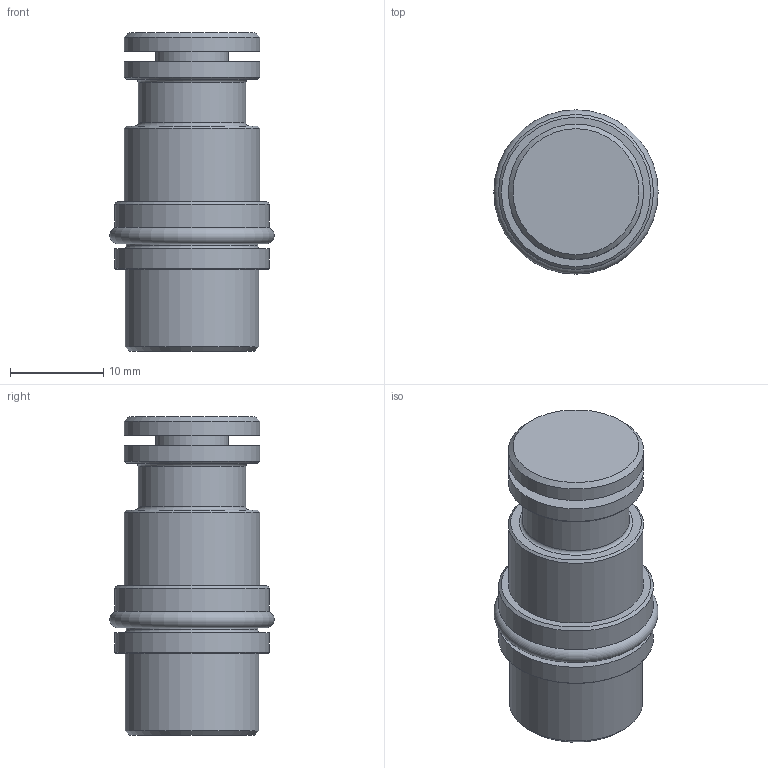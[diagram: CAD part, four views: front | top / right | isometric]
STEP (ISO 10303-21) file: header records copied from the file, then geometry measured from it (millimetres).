
FILE_DESCRIPTION (( 'STEP AP203' ), '1' );
FILE_NAME ('C14-1002 Cobalt 14 Dummy Plug.STEP', '2022-12-05T17:05:02', ( '' ), ( '' ), 'SwSTEP 2.0', 'SolidWorks 2022', '' );
FILE_SCHEMA (( 'CONFIG_CONTROL_DESIGN' ));
Length unit declared in the file: millimetre
Products named in the file (1): C14-1002 Cobalt 14 Dummy Plug
Bounding box: 17.62 x 17.62 x 34.15 mm (x, y, z)
Volume: 4546.6 mm3; surface area: 2949.6 mm2
Topology: 2 solids, 2 shells, 32 faces, 54 edges, 32 vertices
Faces by surface type: cylinder 10, plane 10, cone 7, torus 5
Full cylindrical faces by diameter (mm): 7.8 x1, 11 x1, 11.5 x1, 14.06 x1, 14.3 x1, 14.5 x3, 16.6 x2
Entity records: 699 total; most frequent: DIRECTION 126, CARTESIAN_POINT 93, AXIS2_PLACEMENT_3D 63, ORIENTED_EDGE 60, EDGE_LOOP 60, FACE_OUTER_BOUND 45, ADVANCED_FACE 32, EDGE_CURVE 30
